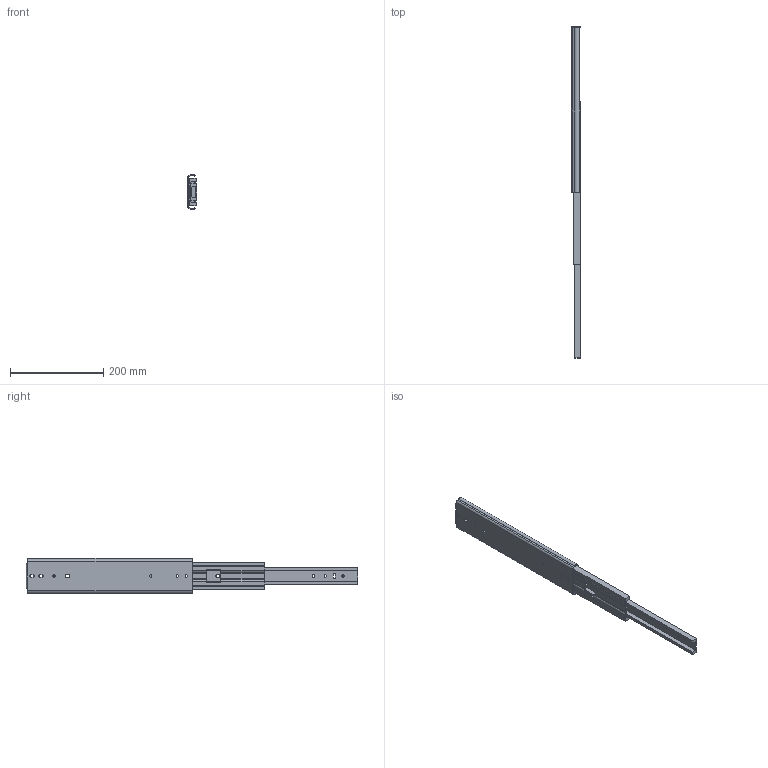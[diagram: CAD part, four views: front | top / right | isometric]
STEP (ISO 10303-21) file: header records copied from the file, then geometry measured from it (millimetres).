
FILE_DESCRIPTION(/* description */ ('Unknown'),/* implementation_level */ '2;1');
FILE_NAME(/* name */ '76J01-14 open',/* time_stamp */ '2024-07-26T15:21:18+08:00',/* author */ ('Unknown'),/* organization */ ('Unknown'),/* preprocessor_version */ 'ST-DEVELOPER v18.104',/* originating_system */ 'Solid Edge',/* authorisation */ 'Unknown');
FILE_SCHEMA (('AUTOMOTIVE_DESIGN {1 0 10303 214 3 1 1}'));
Length unit declared in the file: millimetre
Products named in the file (4): 76J01-14 open; 76J01 14 inch 內_0; 76J01 14 ｦTｦ; 76J01 14 吋中_
Assembly tree (3 placements, depth 2):
  76J01-14 open
    76J01 14 inch 內_0
    76J01 14 ｦTｦ
    76J01 14 吋中_
Bounding box: 19.3 x 710.5 x 76.76 mm (x, y, z)
Volume: 275774.9 mm3; surface area: 173127.2 mm2
Topology: 3 solids, 3 shells, 161 faces, 484 edges, 325 vertices
Faces by surface type: plane 92, cylinder 69
Full cylindrical faces by diameter (mm): 5.2 x7
Entity records: 5893 total; most frequent: CARTESIAN_POINT 953, ORIENTED_EDGE 940, DIRECTION 940, EDGE_CURVE 470, LINE 330, VECTOR 330, VERTEX_POINT 318, AXIS2_PLACEMENT_3D 305
